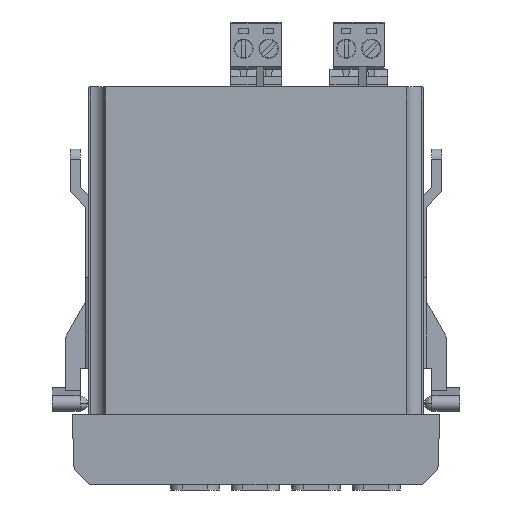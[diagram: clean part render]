
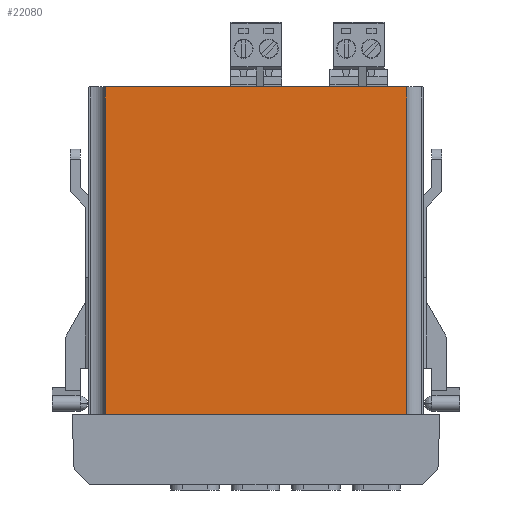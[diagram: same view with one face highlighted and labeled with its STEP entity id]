
A CAD part, front view. The second image highlights one B-rep face of the part: STEP entity #22080.
In plain terms, the highlighted planar face has unit normal (0, -1, 0.003).
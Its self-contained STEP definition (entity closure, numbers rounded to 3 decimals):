
#72 = VECTOR ( 'NONE', #14387, 1000. ) ;
#391 = VERTEX_POINT ( 'NONE', #21852 ) ;
#424 = CARTESIAN_POINT ( 'NONE',  ( 17.48, -33.32, -65. ) ) ;
#597 = DIRECTION ( 'NONE',  ( 1., 0., 0. ) ) ;
#1561 = DIRECTION ( 'NONE',  ( 0., 0.003, 1. ) ) ;
#2684 = CARTESIAN_POINT ( 'NONE',  ( 0., -33.328, -67.903 ) ) ;
#2941 = EDGE_CURVE ( 'NONE', #37094, #4066, #21786, .T. ) ;
#3081 = LINE ( 'NONE', #30816, #30271 ) ;
#3641 = EDGE_CURVE ( 'NONE', #391, #29618, #34522, .T. ) ;
#4066 = VERTEX_POINT ( 'NONE', #40844 ) ;
#4806 = CARTESIAN_POINT ( 'NONE',  ( 29.88, -33.15, 0. ) ) ;
#6247 = DIRECTION ( 'NONE',  ( 1., 0., 0. ) ) ;
#6462 = LINE ( 'NONE', #20628, #13173 ) ;
#7252 = DIRECTION ( 'NONE',  ( 0., 0.003, 1. ) ) ;
#7299 = ORIENTED_EDGE ( 'NONE', *, *, #12793, .T. ) ;
#7353 = DIRECTION ( 'NONE',  ( 1., 0., 0. ) ) ;
#7704 = LINE ( 'NONE', #22899, #20585 ) ;
#8028 = VERTEX_POINT ( 'NONE', #18683 ) ;
#8092 = CARTESIAN_POINT ( 'NONE',  ( -17.72, -33.328, -67.903 ) ) ;
#8154 = EDGE_CURVE ( 'NONE', #38948, #28804, #32800, .T. ) ;
#8615 = VECTOR ( 'NONE', #7353, 1000. ) ;
#8679 = EDGE_CURVE ( 'NONE', #29618, #26917, #23054, .T. ) ;
#9073 = ORIENTED_EDGE ( 'NONE', *, *, #21325, .T. ) ;
#12484 = ORIENTED_EDGE ( 'NONE', *, *, #19412, .T. ) ;
#12793 = EDGE_CURVE ( 'NONE', #28804, #37094, #22691, .T. ) ;
#13173 = VECTOR ( 'NONE', #7252, 1000. ) ;
#13492 = LINE ( 'NONE', #22163, #42190 ) ;
#13925 = ORIENTED_EDGE ( 'NONE', *, *, #15162, .T. ) ;
#14315 = VECTOR ( 'NONE', #6247, 1000. ) ;
#14387 = DIRECTION ( 'NONE',  ( 1., 0., 0. ) ) ;
#14467 = ORIENTED_EDGE ( 'NONE', *, *, #36063, .T. ) ;
#15162 = EDGE_CURVE ( 'NONE', #4066, #30122, #17367, .T. ) ;
#15552 = VERTEX_POINT ( 'NONE', #424 ) ;
#16029 = VECTOR ( 'NONE', #34328, 1000. ) ;
#16078 = ORIENTED_EDGE ( 'NONE', *, *, #8154, .T. ) ;
#16460 = ORIENTED_EDGE ( 'NONE', *, *, #19572, .T. ) ;
#16587 = ORIENTED_EDGE ( 'NONE', *, *, #8679, .T. ) ;
#16929 = CARTESIAN_POINT ( 'NONE',  ( 17.48, -33.328, -67.903 ) ) ;
#16998 = DIRECTION ( 'NONE',  ( 0., -0.003, -1. ) ) ;
#17367 = LINE ( 'NONE', #23603, #8615 ) ;
#17644 = VECTOR ( 'NONE', #24748, 1000. ) ;
#17797 = DIRECTION ( 'NONE',  ( 0., -0.003, -1. ) ) ;
#17898 = DIRECTION ( 'NONE',  ( 0., -0.003, -1. ) ) ;
#18683 = CARTESIAN_POINT ( 'NONE',  ( -11.77, -33.328, -67.903 ) ) ;
#18812 = LINE ( 'NONE', #28043, #20850 ) ;
#19113 = DIRECTION ( 'NONE',  ( 0., 0.003, 1. ) ) ;
#19412 = EDGE_CURVE ( 'NONE', #8028, #37999, #6462, .T. ) ;
#19537 = CARTESIAN_POINT ( 'NONE',  ( 29.88, -33.15, 0. ) ) ;
#19572 = EDGE_CURVE ( 'NONE', #30122, #42174, #18812, .T. ) ;
#20409 = AXIS2_PLACEMENT_3D ( 'NONE', #37385, #21067, #17797 ) ;
#20585 = VECTOR ( 'NONE', #597, 1000. ) ;
#20628 = CARTESIAN_POINT ( 'NONE',  ( -11.77, -33.15, 0. ) ) ;
#20850 = VECTOR ( 'NONE', #17898, 1000. ) ;
#21013 = EDGE_CURVE ( 'NONE', #37999, #391, #13492, .T. ) ;
#21067 = DIRECTION ( 'NONE',  ( 0., -1., 0.003 ) ) ;
#21325 = EDGE_CURVE ( 'NONE', #42174, #8028, #34983, .T. ) ;
#21786 = LINE ( 'NONE', #33429, #25391 ) ;
#21852 = CARTESIAN_POINT ( 'NONE',  ( 11.53, -33.32, -65. ) ) ;
#22080 = ADVANCED_FACE ( 'NONE', ( #27252 ), #30795, .T. ) ;
#22118 = ORIENTED_EDGE ( 'NONE', *, *, #21013, .T. ) ;
#22163 = CARTESIAN_POINT ( 'NONE',  ( 0., -33.32, -65. ) ) ;
#22308 = DIRECTION ( 'NONE',  ( 1., 0., 0. ) ) ;
#22691 = LINE ( 'NONE', #34617, #16029 ) ;
#22899 = CARTESIAN_POINT ( 'NONE',  ( 0., -33.32, -65. ) ) ;
#22954 = ORIENTED_EDGE ( 'NONE', *, *, #29729, .T. ) ;
#23054 = LINE ( 'NONE', #2684, #14315 ) ;
#23603 = CARTESIAN_POINT ( 'NONE',  ( 0., -33.32, -65. ) ) ;
#24748 = DIRECTION ( 'NONE',  ( 0., -0.003, -1. ) ) ;
#25391 = VECTOR ( 'NONE', #16998, 1000. ) ;
#26917 = VERTEX_POINT ( 'NONE', #16929 ) ;
#27252 = FACE_OUTER_BOUND ( 'NONE', #32789, .T. ) ;
#28043 = CARTESIAN_POINT ( 'NONE',  ( -17.72, -33.15, 0. ) ) ;
#28184 = ORIENTED_EDGE ( 'NONE', *, *, #3641, .T. ) ;
#28804 = VERTEX_POINT ( 'NONE', #4806 ) ;
#29618 = VERTEX_POINT ( 'NONE', #35905 ) ;
#29729 = EDGE_CURVE ( 'NONE', #15552, #38948, #7704, .T. ) ;
#29866 = CARTESIAN_POINT ( 'NONE',  ( -11.77, -33.32, -65. ) ) ;
#30122 = VERTEX_POINT ( 'NONE', #35713 ) ;
#30271 = VECTOR ( 'NONE', #1561, 1000. ) ;
#30795 = PLANE ( 'NONE',  #20409 ) ;
#30816 = CARTESIAN_POINT ( 'NONE',  ( 17.48, -33.15, 0. ) ) ;
#32789 = EDGE_LOOP ( 'NONE', ( #9073, #12484, #22118, #28184, #16587, #14467, #22954, #16078, #7299, #40553, #13925, #16460 ) ) ;
#32800 = LINE ( 'NONE', #19537, #35359 ) ;
#33429 = CARTESIAN_POINT ( 'NONE',  ( -29.88, -33.15, 0. ) ) ;
#34328 = DIRECTION ( 'NONE',  ( -1., 0., 0. ) ) ;
#34522 = LINE ( 'NONE', #41473, #17644 ) ;
#34617 = CARTESIAN_POINT ( 'NONE',  ( -32.88, -33.15, 0. ) ) ;
#34983 = LINE ( 'NONE', #37583, #72 ) ;
#35359 = VECTOR ( 'NONE', #19113, 1000. ) ;
#35713 = CARTESIAN_POINT ( 'NONE',  ( -17.72, -33.32, -65. ) ) ;
#35905 = CARTESIAN_POINT ( 'NONE',  ( 11.53, -33.328, -67.903 ) ) ;
#36063 = EDGE_CURVE ( 'NONE', #26917, #15552, #3081, .T. ) ;
#37094 = VERTEX_POINT ( 'NONE', #40969 ) ;
#37385 = CARTESIAN_POINT ( 'NONE',  ( 0., -33.15, 0. ) ) ;
#37583 = CARTESIAN_POINT ( 'NONE',  ( 0., -33.328, -67.903 ) ) ;
#37999 = VERTEX_POINT ( 'NONE', #29866 ) ;
#38948 = VERTEX_POINT ( 'NONE', #41948 ) ;
#40553 = ORIENTED_EDGE ( 'NONE', *, *, #2941, .T. ) ;
#40844 = CARTESIAN_POINT ( 'NONE',  ( -29.88, -33.32, -65. ) ) ;
#40969 = CARTESIAN_POINT ( 'NONE',  ( -29.88, -33.15, 0. ) ) ;
#41473 = CARTESIAN_POINT ( 'NONE',  ( 11.53, -33.15, 0. ) ) ;
#41948 = CARTESIAN_POINT ( 'NONE',  ( 29.88, -33.32, -65. ) ) ;
#42174 = VERTEX_POINT ( 'NONE', #8092 ) ;
#42190 = VECTOR ( 'NONE', #22308, 1000. ) ;
